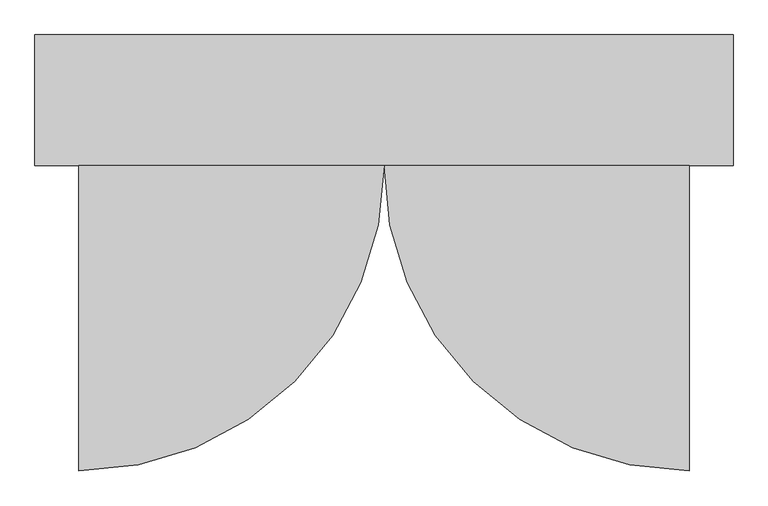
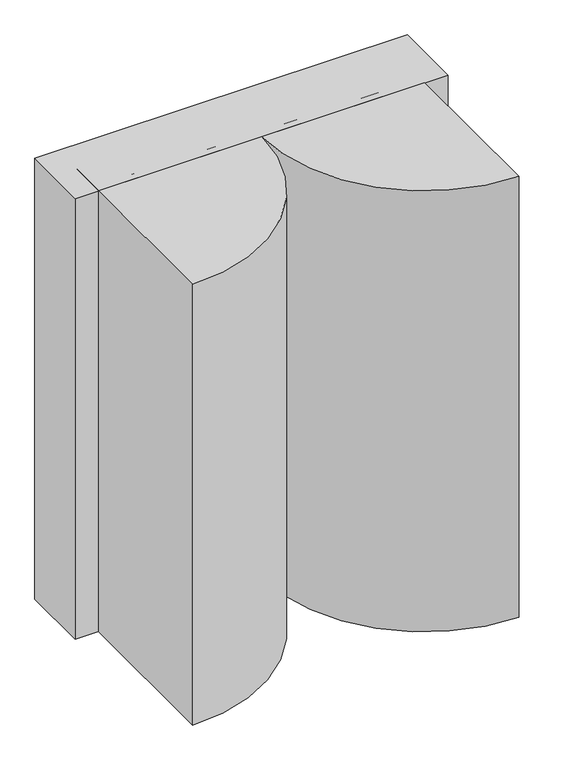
"""IFC4 building model written with IfcOpenShell, lengths in millimetres: electric distribution board geometry, 21300_制御盤 : 両扉."""

from ifc_helpers import new_model, si_unit, point, frame, frame_2d, origin, place, context, project, spatial, polyline, circle_curve, trimmed, segment, composite_curve, outline, extrude, faceted_brep, source, transform, mapped, element, save


def electric_distribution_board_057822bf(model_context):
    return source(origin(), model_context, "Body", "SolidModel", [
        extrude(outline(composite_curve([segment(polyline([(-700.0, -1050.0), (-700.0, -350.0), (0.0, -350.0)]), True, "CONTINUOUS"), segment(trimmed(circle_curve(frame_2d((-700.0, -350.0)), 700.0), [point((0.0, -350.0))], [point((-700.0, -1050.0))], False, "CARTESIAN"), True, "CONTINUOUS")], self_intersect=False)), frame((0.0, 0.0, 150.0), z_axis=(0.0, 0.0, 1.0), x_axis=(1.0, 0.0, 0.0)), (0.0, 0.0, 1.0), 2000.0),
        extrude(outline(composite_curve([segment(trimmed(circle_curve(frame_2d((700.0, -350.0)), 700.0), [point((700.0, -1050.0))], [point((0.0, -350.0))], False, "CARTESIAN"), True, "CONTINUOUS"), segment(polyline([(0.0, -350.0), (700.0, -350.0), (700.0, -1050.0)]), True, "CONTINUOUS")], self_intersect=False)), frame((0.0, 0.0, 150.0), z_axis=(0.0, 0.0, 1.0), x_axis=(1.0, 0.0, 0.0)), (0.0, 0.0, 1.0), 2000.0),
        extrude(outline(polyline([(800.0, -350.0), (-800.0, -350.0), (-800.0, -50.0), (800.0, -50.0), (800.0, -350.0)])), frame((0.0, 0.0, 150.0), z_axis=(0.0, 0.0, 1.0), x_axis=(1.0, 0.0, 0.0)), (0.0, 0.0, 1.0), 2000.0),
        faceted_brep([(0.0, -350.0, 2150.0), (0.0, -320.0, 2150.0), (-700.0, -320.0, 2150.0), (-700.0, -350.0, 2150.0), (0.0, -350.0, 250.0), (-700.0, -350.0, 250.0), (-700.0, -320.0, 250.0), (0.0, -320.0, 250.0), (-50.0, -350.0, 1180.0), (-50.0, -350.0, 1120.0), (-70.0, -350.0, 1120.0), (-70.0, -350.0, 1180.0), (-50.0, -330.0, 1120.0), (-50.0, -330.0, 1180.0), (-70.0, -330.0, 1180.0), (-70.0, -330.0, 1120.0)], [[[0, 1, 2, 3]], [[4, 5, 6, 7]], [[1, 0, 4, 7]], [[2, 1, 7, 6]], [[3, 2, 6, 5]], [[0, 3, 5, 4], [8, 9, 10, 11]], [[12, 13, 14, 15]], [[13, 12, 9, 8]], [[14, 13, 8, 11]], [[15, 14, 11, 10]], [[12, 15, 10, 9]]]),
        faceted_brep([(700.0, -350.0, 2150.0), (700.0, -320.0, 2150.0), (0.0, -320.0, 2150.0), (0.0, -350.0, 2150.0), (700.0, -350.0, 250.0), (0.0, -350.0, 250.0), (0.0, -320.0, 250.0), (700.0, -320.0, 250.0), (70.0, -350.0, 1180.0), (70.0, -350.0, 1120.0), (50.0, -350.0, 1120.0), (50.0, -350.0, 1180.0), (70.0, -330.0, 1120.0), (70.0, -330.0, 1180.0), (50.0, -330.0, 1180.0), (50.0, -330.0, 1120.0)], [[[0, 1, 2, 3]], [[4, 5, 6, 7]], [[1, 0, 4, 7]], [[2, 1, 7, 6]], [[3, 2, 6, 5]], [[0, 3, 5, 4], [8, 9, 10, 11]], [[12, 13, 14, 15]], [[13, 12, 9, 8]], [[14, 13, 8, 11]], [[15, 14, 11, 10]], [[12, 15, 10, 9]]]),
        faceted_brep([(-700.0, -50.0, 250.0), (700.0, -50.0, 250.0), (700.0, -320.0, 250.0), (680.0, -320.0, 250.0), (680.0, -70.0, 250.0), (-680.0, -70.0, 250.0), (-680.0, -320.0, 250.0), (-700.0, -320.0, 250.0), (-700.0, -320.0, 2150.0), (-700.0, -50.0, 2150.0), (-680.0, -320.0, 2130.0), (680.0, -320.0, 2130.0), (700.0, -320.0, 2150.0), (-680.0, -70.0, 2130.0), (680.0, -70.0, 2130.0), (700.0, -50.0, 2150.0)], [[[0, 1, 2, 3, 4, 5, 6, 7]], [[0, 7, 8, 9]], [[8, 7, 6, 10, 11, 3, 2, 12]], [[6, 5, 13, 10]], [[5, 4, 14, 13]], [[4, 3, 11, 14]], [[12, 2, 1, 15]], [[15, 1, 0, 9]], [[12, 15, 9, 8]], [[11, 10, 13, 14]]]),
        extrude(outline(polyline([(700.0, -320.0), (-700.0, -320.0), (-700.0, -50.0), (700.0, -50.0), (700.0, -320.0)])), frame((0.0, 0.0, 150.0), z_axis=(0.0, 0.0, 1.0), x_axis=(1.0, 0.0, 0.0)), (0.0, 0.0, 1.0), 100.0),
    ])


if __name__ == "__main__":
    model = new_model("IFC4")
    model_context = context("Model", 3, world=origin())
    ifc_project = project(units=[si_unit("LENGTHUNIT", "METRE", prefix="MILLI")], contexts=[model_context])
    site = spatial("IfcSite", under=ifc_project)
    building = spatial("IfcBuilding", under=site)
    placement = place(None, origin())
    electric_distribution_board_shape = electric_distribution_board_057822bf(model_context)
    element("IfcElectricDistributionBoard", 1, ObjectType="21300_制御盤 : 両扉", at=placement, inside=building, context=model_context, shape_type="MappedRepresentation", body=[
        mapped(electric_distribution_board_shape, transform((0.0, 0.0, 0.0), x_axis=(1.0, 0.0, 0.0), y_axis=(0.0, 1.0, 0.0), z_axis=(0.0, 0.0, 1.0))),
    ])
    save(model, "model.ifc")
